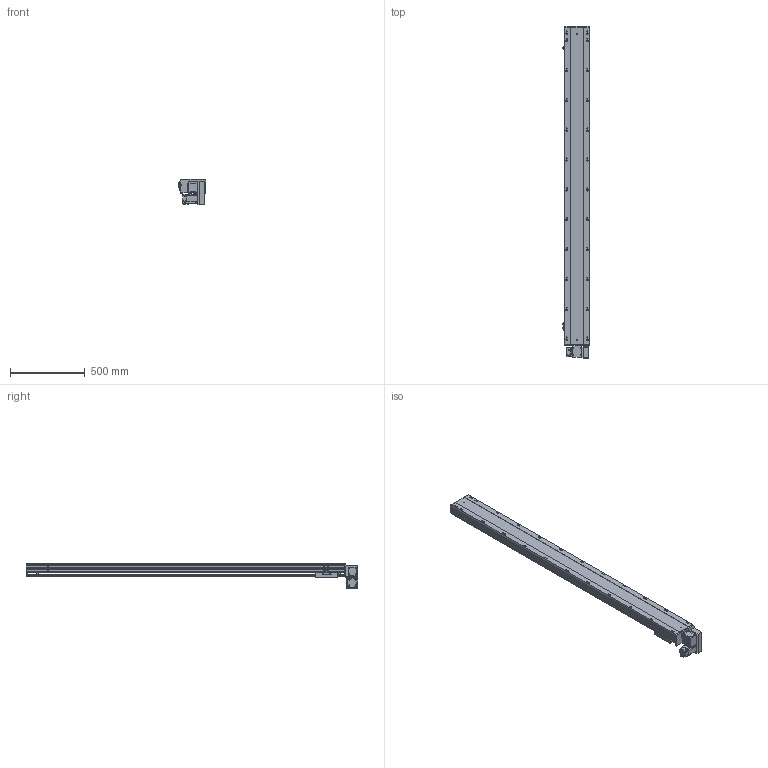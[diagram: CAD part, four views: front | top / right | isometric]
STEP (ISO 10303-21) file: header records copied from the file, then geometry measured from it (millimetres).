
FILE_DESCRIPTION (( 'STEP AP203' ), '1' );
FILE_NAME ('BTB17-L40-1850-LU-M40-C4.STEP', '2022-07-20T06:15:35', ( 'CXY' ), ( 'BT' ), 'SwSTEP 2.0', 'SolidWorks 2016', '' );
FILE_SCHEMA (( 'CONFIG_CONTROL_DESIGN' ));
Length unit declared in the file: millimetre
Products named in the file (11): BTB17-L-06; BTB17-L-菁釱_XD; FS-07-T40(1); BTB17-L-24; BTB17-L-HZ; FS-08-T40; BTB17-L-04; BTB17-L-23; M40; BTB17-L40-1850-LU-M40-C4; BTB17-L-01
Assembly tree (13 placements, depth 2):
  BTB17-L40-1850-LU-M40-C4
    BTB17-L-菁釱_XD
    BTB17-L-01
    BTB17-L-04  x3
    BTB17-L-06
    BTB17-L-23  x2
    BTB17-L-24
    BTB17-L-HZ
    FS-07-T40(1)
    FS-08-T40
    M40
Bounding box: 183.7 x 2223.5 x 171.5 mm (x, y, z)
Volume: 18697415.1 mm3; surface area: 2446287.8 mm2
Topology: 22 solids, 22 shells, 1705 faces, 4471 edges, 2826 vertices
Faces by surface type: plane 917, cylinder 584, cone 172, torus 16, bspline 16
Entity records: 44578 total; most frequent: CARTESIAN_POINT 8674, DIRECTION 7353, ORIENTED_EDGE 7054, EDGE_CURVE 3527, AXIS2_PLACEMENT_3D 2527, VECTOR 2299, LINE 2299, VERTEX_POINT 2294
